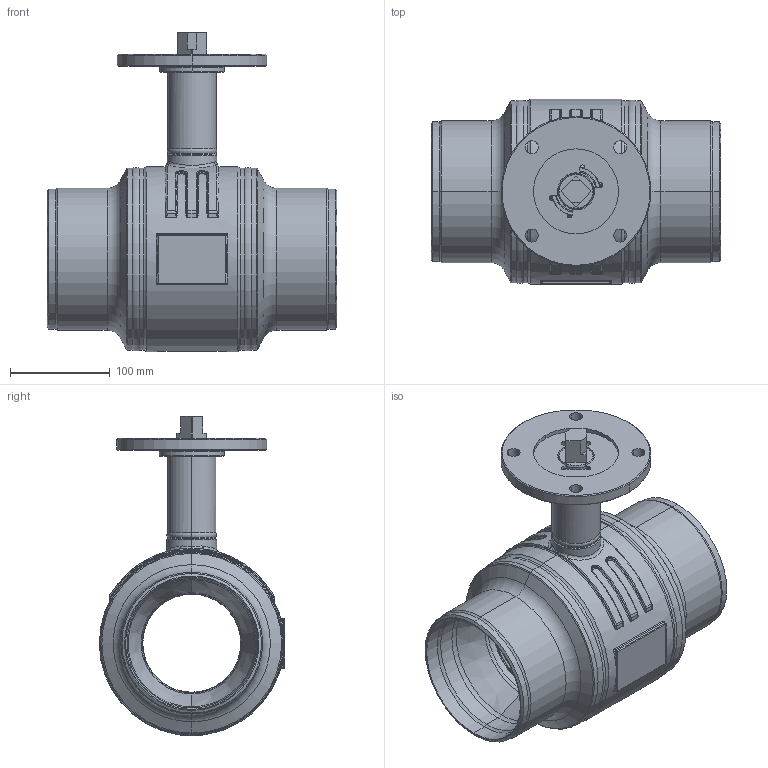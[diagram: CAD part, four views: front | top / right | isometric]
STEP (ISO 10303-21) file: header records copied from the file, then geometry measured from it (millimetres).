
FILE_DESCRIPTION((''),'2;1');
FILE_NAME('KHMO-S-R-H-125R100P04_SW0001','2025-04-23T11:08:08',('jeitlers'),('KLINGER'),'CREO PARAMETRIC BY PTC INC, 2023014','CREO PARAMETRIC BY PTC INC, 2023014','');
FILE_SCHEMA(('CONFIG_CONTROL_DESIGN'));
Length unit declared in the file: millimetre
Products named in the file (1): KHMO-S-R-H-125R100P04_SW0001
Bounding box: 290 x 185.5 x 319.5 mm (x, y, z)
Volume: 2504758.8 mm3; surface area: 615353.1 mm2
Topology: 2 solids, 2 shells, 552 faces, 1315 edges, 778 vertices
Faces by surface type: cylinder 190, torus 116, plane 104, cone 82, bspline 52, sphere 8
Entity records: 28128 total; most frequent: CARTESIAN_POINT 15350, DIRECTION 2831, ORIENTED_EDGE 2614, EDGE_CURVE 1307, AXIS2_PLACEMENT_3D 1198, VERTEX_POINT 778, CIRCLE 698, EDGE_LOOP 599
